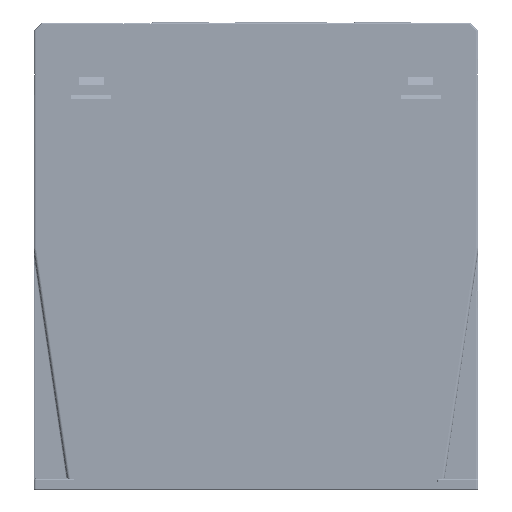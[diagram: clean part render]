
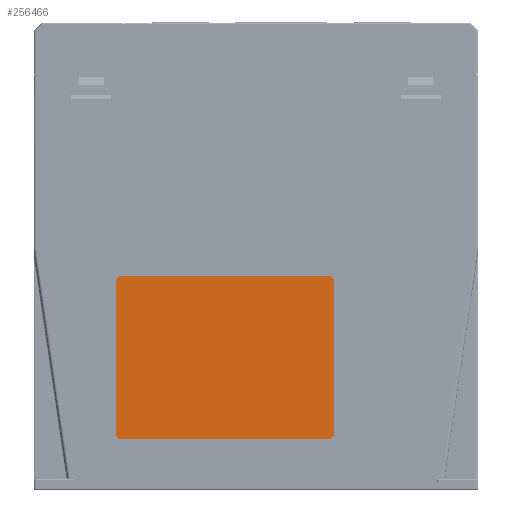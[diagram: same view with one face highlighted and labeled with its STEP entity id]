
A CAD part, left-side view. The second image highlights one B-rep face of the part: STEP entity #256466.
In plain terms, the highlighted planar face has unit normal (-1, 0, 0).
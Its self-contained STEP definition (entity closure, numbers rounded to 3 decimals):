
#243449=CARTESIAN_POINT('',(-166.972,195.156,-22.492));
#243450=VERTEX_POINT('',#243449);
#243451=CARTESIAN_POINT('',(-166.972,197.156,-24.492));
#243452=VERTEX_POINT('',#243451);
#243453=CARTESIAN_POINT('',(-166.972,195.156,-24.492));
#243454=DIRECTION('',(-1.0,0.0,0.0));
#243455=DIRECTION('',(0.0,0.707,0.707));
#243456=AXIS2_PLACEMENT_3D('',#243453,#243454,#243455);
#243457=CIRCLE('',#243456,2.);
#243458=EDGE_CURVE('',#243450,#243452,#243457,.T.);
#243482=CARTESIAN_POINT('',(-166.972,119.756,-22.492));
#243483=VERTEX_POINT('',#243482);
#243490=CARTESIAN_POINT('',(-166.972,117.756,-24.492));
#243491=VERTEX_POINT('',#243490);
#243492=CARTESIAN_POINT('',(-166.972,119.756,-24.492));
#243493=DIRECTION('',(-1.,0.0,0.0));
#243494=DIRECTION('',(0.0,-0.707,0.707));
#243495=AXIS2_PLACEMENT_3D('',#243492,#243493,#243494);
#243496=CIRCLE('',#243495,2.);
#243497=EDGE_CURVE('',#243491,#243483,#243496,.T.);
#243546=CARTESIAN_POINT('',(-166.972,117.756,-79.892));
#243547=VERTEX_POINT('',#243546);
#243554=CARTESIAN_POINT('',(-166.972,119.756,-81.892));
#243555=VERTEX_POINT('',#243554);
#243556=CARTESIAN_POINT('',(-166.972,119.756,-79.892));
#243557=DIRECTION('',(-1.,0.0,0.0));
#243558=DIRECTION('',(0.0,-0.707,-0.707));
#243559=AXIS2_PLACEMENT_3D('',#243556,#243557,#243558);
#243560=CIRCLE('',#243559,2.);
#243561=EDGE_CURVE('',#243555,#243547,#243560,.T.);
#243578=CARTESIAN_POINT('',(-166.972,195.156,-81.892));
#243579=VERTEX_POINT('',#243578);
#243586=CARTESIAN_POINT('',(-166.972,197.156,-79.892));
#243587=VERTEX_POINT('',#243586);
#243588=CARTESIAN_POINT('',(-166.972,195.156,-79.892));
#243589=DIRECTION('',(-1.0,0.0,0.0));
#243590=DIRECTION('',(0.0,0.707,-0.707));
#243591=AXIS2_PLACEMENT_3D('',#243588,#243589,#243590);
#243592=CIRCLE('',#243591,2.);
#243593=EDGE_CURVE('',#243587,#243579,#243592,.T.);
#256431=CARTESIAN_POINT('',(-166.972,181.956,5.208));
#256432=DIRECTION('',(-1.0,0.0,0.0));
#256433=DIRECTION('',(0.0,0.0,1.0));
#256434=AXIS2_PLACEMENT_3D('',#256431,#256432,#256433);
#256435=PLANE('',#256434);
#256436=ORIENTED_EDGE('',*,*,#243593,.T.);
#256437=CARTESIAN_POINT('',(-166.972,195.156,-81.892));
#256438=DIRECTION('',(0.0,-1.0,0.0));
#256439=VECTOR('',#256438,75.4);
#256440=LINE('',#256437,#256439);
#256441=EDGE_CURVE('',#243579,#243555,#256440,.T.);
#256442=ORIENTED_EDGE('',*,*,#256441,.T.);
#256443=ORIENTED_EDGE('',*,*,#243561,.T.);
#256444=CARTESIAN_POINT('',(-166.972,117.756,-79.892));
#256445=DIRECTION('',(0.0,0.0,1.0));
#256446=VECTOR('',#256445,55.4);
#256447=LINE('',#256444,#256446);
#256448=EDGE_CURVE('',#243547,#243491,#256447,.T.);
#256449=ORIENTED_EDGE('',*,*,#256448,.T.);
#256450=ORIENTED_EDGE('',*,*,#243497,.T.);
#256451=CARTESIAN_POINT('',(-166.972,119.756,-22.492));
#256452=DIRECTION('',(0.0,1.0,0.0));
#256453=VECTOR('',#256452,75.4);
#256454=LINE('',#256451,#256453);
#256455=EDGE_CURVE('',#243483,#243450,#256454,.T.);
#256456=ORIENTED_EDGE('',*,*,#256455,.T.);
#256457=ORIENTED_EDGE('',*,*,#243458,.T.);
#256458=CARTESIAN_POINT('',(-166.972,197.156,-24.492));
#256459=DIRECTION('',(0.0,0.0,-1.0));
#256460=VECTOR('',#256459,55.4);
#256461=LINE('',#256458,#256460);
#256462=EDGE_CURVE('',#243452,#243587,#256461,.T.);
#256463=ORIENTED_EDGE('',*,*,#256462,.T.);
#256464=EDGE_LOOP('',(#256436,#256442,#256443,#256449,#256450,#256456,#256457,#256463));
#256465=FACE_OUTER_BOUND('',#256464,.T.);
#256466=ADVANCED_FACE('',(#256465),#256435,.T.);
